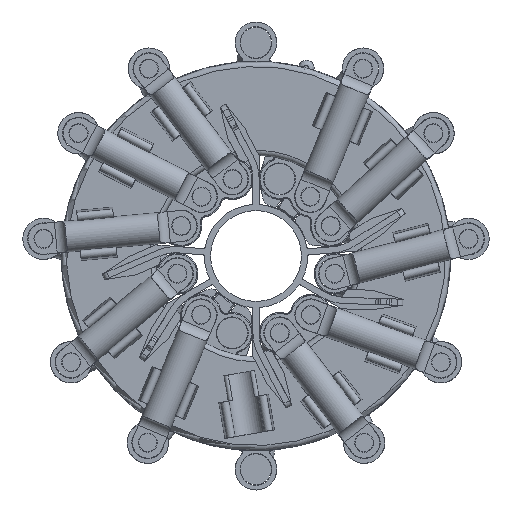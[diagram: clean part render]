
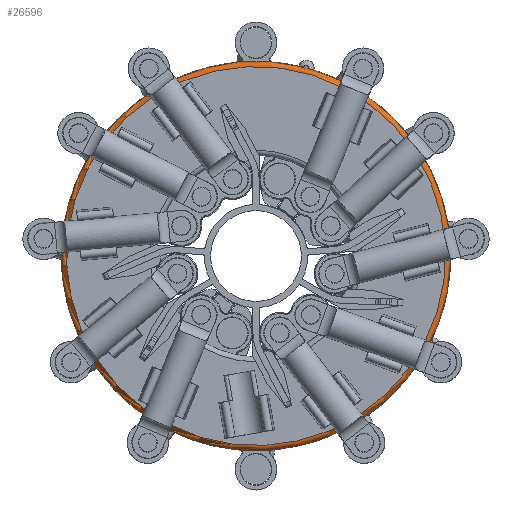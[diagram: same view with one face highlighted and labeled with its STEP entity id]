
A CAD part, front view. The second image highlights one B-rep face of the part: STEP entity #26596.
In plain terms, the highlighted toroidal (fillet/blend) face has major radius 36.7 mm and minor radius 1 mm.
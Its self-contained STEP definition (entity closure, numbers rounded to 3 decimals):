
#109=TOROIDAL_SURFACE('',#29716,36.7,1.);
#2420=FACE_OUTER_BOUND('',#3953,.T.);
#3953=EDGE_LOOP('',(#22823,#22824,#22825,#22826,#22827,#22828));
#7839=CIRCLE('',#27137,36.7);
#9125=CIRCLE('',#29293,37.7);
#9126=CIRCLE('',#29295,37.7);
#9127=CIRCLE('',#29296,37.7);
#9300=CIRCLE('',#29717,1.);
#9839=VERTEX_POINT('',#39809);
#11572=VERTEX_POINT('',#46429);
#11573=VERTEX_POINT('',#46442);
#11575=VERTEX_POINT('',#46464);
#12484=EDGE_CURVE('',#9839,#9839,#7839,.T.);
#15082=EDGE_CURVE('',#11573,#11572,#9125,.T.);
#15083=EDGE_CURVE('',#11575,#11573,#9126,.T.);
#15084=EDGE_CURVE('',#11572,#11575,#9127,.T.);
#15494=EDGE_CURVE('',#9839,#11575,#9300,.T.);
#22823=ORIENTED_EDGE('',*,*,#12484,.T.);
#22824=ORIENTED_EDGE('',*,*,#15494,.T.);
#22825=ORIENTED_EDGE('',*,*,#15083,.T.);
#22826=ORIENTED_EDGE('',*,*,#15082,.T.);
#22827=ORIENTED_EDGE('',*,*,#15084,.T.);
#22828=ORIENTED_EDGE('',*,*,#15494,.F.);
#26596=ADVANCED_FACE('',(#2420),#109,.T.);
#27137=AXIS2_PLACEMENT_3D('',#39810,#31125,#31126);
#29293=AXIS2_PLACEMENT_3D('',#46462,#36601,#36602);
#29295=AXIS2_PLACEMENT_3D('',#46465,#36605,#36606);
#29296=AXIS2_PLACEMENT_3D('',#46466,#36607,#36608);
#29716=AXIS2_PLACEMENT_3D('',#47353,#37676,#37677);
#29717=AXIS2_PLACEMENT_3D('',#47354,#37678,#37679);
#31125=DIRECTION('center_axis',(0.,1.,0.));
#31126=DIRECTION('ref_axis',(0.,0.,
-1.));
#36601=DIRECTION('center_axis',(0.,-1.,0.));
#36602=DIRECTION('ref_axis',(0.,0.,
1.));
#36605=DIRECTION('center_axis',(0.,-1.,0.));
#36606=DIRECTION('ref_axis',(0.,0.,
1.));
#36607=DIRECTION('center_axis',(0.,-1.,0.));
#36608=DIRECTION('ref_axis',(0.,0.,
1.));
#37676=DIRECTION('center_axis',(0.,-1.,0.));
#37677=DIRECTION('ref_axis',(-0.22,0.,0.976));
#37678=DIRECTION('center_axis',(0.976,0.,
0.22));
#37679=DIRECTION('ref_axis',(0.22,0.,-0.976));
#39809=CARTESIAN_POINT('',(-16.445,-11.973,-35.812));
#39810=CARTESIAN_POINT('Origin',(-24.502,-11.973,-0.007));
#46429=CARTESIAN_POINT('',(-15.237,-10.973,36.537));
#46442=CARTESIAN_POINT('',(-14.271,-10.973,36.279));
#46462=CARTESIAN_POINT('Origin',(-24.502,-10.973,-0.007));
#46464=CARTESIAN_POINT('',(-16.225,-10.973,-36.787));
#46465=CARTESIAN_POINT('Origin',(-24.502,-10.973,-0.007));
#46466=CARTESIAN_POINT('Origin',(-24.502,-10.973,-0.007));
#47353=CARTESIAN_POINT('Origin',(-24.502,-10.973,-0.007));
#47354=CARTESIAN_POINT('Origin',(-16.445,-10.973,-35.812));
